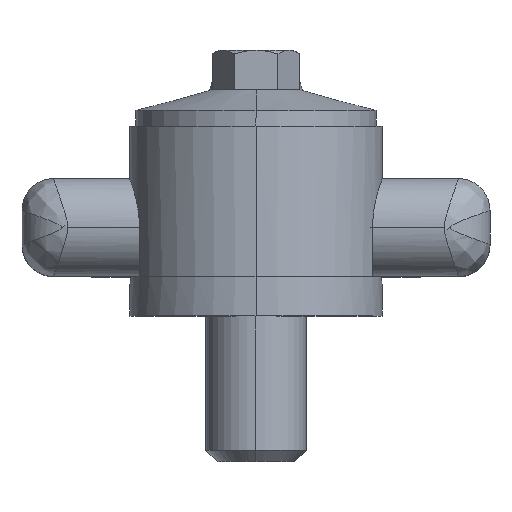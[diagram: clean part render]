
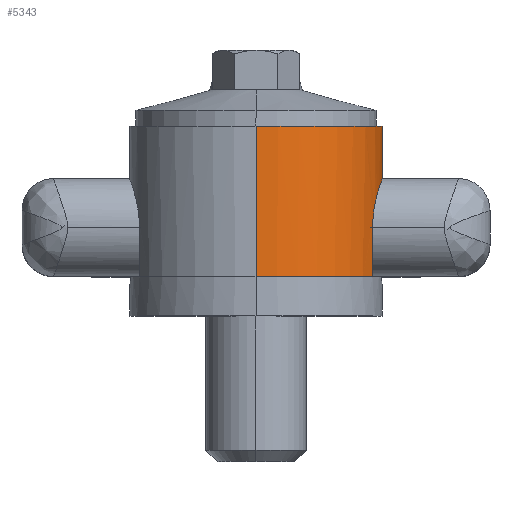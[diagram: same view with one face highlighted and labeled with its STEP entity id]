
A CAD part, top view. The second image highlights one B-rep face of the part: STEP entity #5343.
In plain terms, the highlighted cylindrical face has radius 40 mm (diameter 80 mm), a partial arc.
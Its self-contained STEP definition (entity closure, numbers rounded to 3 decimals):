
#574 = EDGE_LOOP ( 'NONE', ( #5344, #2859, #2868, #1642, #4916, #4597, #4031, #3854 ) ) ;
#1642 = ORIENTED_EDGE ( 'NONE', *, *, #4917, .T. ) ;
#1993 = VERTEX_POINT ( 'NONE', #3455 ) ;
#2014 = VERTEX_POINT ( 'NONE', #3454 ) ;
#2097 = VERTEX_POINT ( 'NONE', #3453 ) ;
#2859 = ORIENTED_EDGE ( 'NONE', *, *, #2869, .T. ) ;
#2866 = VERTEX_POINT ( 'NONE', #3452 ) ;
#2868 = ORIENTED_EDGE ( 'NONE', *, *, #2874, .F. ) ;
#2869 = EDGE_CURVE ( 'NONE', #2014, #2866, #3451, .T. ) ;
#2874 = EDGE_CURVE ( 'NONE', #2097, #2866, #3508, .T. ) ;
#3447 = CARTESIAN_POINT ( 'NONE',  ( 0., 12.5, 0. ) ) ;
#3448 = DIRECTION ( 'NONE',  ( 0., -1., 0. ) ) ;
#3449 = VECTOR ( 'NONE', #3448, 1000. ) ;
#3450 = CARTESIAN_POINT ( 'NONE',  ( 0., 84., 40. ) ) ;
#3451 = LINE ( 'NONE', #3450, #3449 ) ;
#3452 = CARTESIAN_POINT ( 'NONE',  ( 0., 12.5, 40. ) ) ;
#3453 = CARTESIAN_POINT ( 'NONE',  ( 36.875, 12.5, 15.5 ) ) ;
#3454 = CARTESIAN_POINT ( 'NONE',  ( 0., 60., 40. ) ) ;
#3455 = CARTESIAN_POINT ( 'NONE',  ( 0., 60., -40. ) ) ;
#3479 = DIRECTION ( 'NONE',  ( 0., -1., 0. ) ) ;
#3480 = VECTOR ( 'NONE', #3479, 1000. ) ;
#3481 = CARTESIAN_POINT ( 'NONE',  ( 36.875, 84., -15.5 ) ) ;
#3482 = LINE ( 'NONE', #3481, #3480 ) ;
#3483 = CARTESIAN_POINT ( 'NONE',  ( 36.875, 12.5, -15.5 ) ) ;
#3484 = DIRECTION ( 'NONE',  ( 0., 0., -1. ) ) ;
#3485 = DIRECTION ( 'NONE',  ( 0., -1., 0. ) ) ;
#3486 = CARTESIAN_POINT ( 'NONE',  ( 0., 12.5, 0. ) ) ;
#3487 = AXIS2_PLACEMENT_3D ( 'NONE', #3486, #3485, #3484 ) ;
#3488 = CIRCLE ( 'NONE', #3487, 40. ) ;
#3489 = DIRECTION ( 'NONE',  ( 0., -1., 0. ) ) ;
#3490 = VECTOR ( 'NONE', #3489, 1000. ) ;
#3491 = CARTESIAN_POINT ( 'NONE',  ( 0., 84., -40. ) ) ;
#3492 = LINE ( 'NONE', #3491, #3490 ) ;
#3496 = CARTESIAN_POINT ( 'NONE',  ( 0., 12.5, -40. ) ) ;
#3505 = DIRECTION ( 'NONE',  ( 0., 0., -1. ) ) ;
#3506 = DIRECTION ( 'NONE',  ( 0., -1., 0. ) ) ;
#3507 = AXIS2_PLACEMENT_3D ( 'NONE', #3447, #3506, #3505 ) ;
#3508 = CIRCLE ( 'NONE', #3507, 40. ) ;
#3509 = CARTESIAN_POINT ( 'NONE',  ( 39.621, 42.496, 5.511 ) ) ;
#3510 = CARTESIAN_POINT ( 'NONE',  ( 39.41, 41.912, 6.907 ) ) ;
#3511 = CARTESIAN_POINT ( 'NONE',  ( 39.243, 41.436, 7.794 ) ) ;
#3512 = CARTESIAN_POINT ( 'NONE',  ( 38.963, 40.588, 9.059 ) ) ;
#3513 = CARTESIAN_POINT ( 'NONE',  ( 38.866, 40.285, 9.464 ) ) ;
#3514 = CARTESIAN_POINT ( 'NONE',  ( 38.669, 39.647, 10.239 ) ) ;
#3515 = CARTESIAN_POINT ( 'NONE',  ( 38.569, 39.311, 10.609 ) ) ;
#3516 = CARTESIAN_POINT ( 'NONE',  ( 38.368, 38.604, 11.316 ) ) ;
#3517 = CARTESIAN_POINT ( 'NONE',  ( 38.266, 38.233, 11.653 ) ) ;
#3518 = CARTESIAN_POINT ( 'NONE',  ( 38.066, 37.455, 12.293 ) ) ;
#3519 = CARTESIAN_POINT ( 'NONE',  ( 37.966, 37.046, 12.596 ) ) ;
#3520 = CARTESIAN_POINT ( 'NONE',  ( 37.68, 35.789, 13.439 ) ) ;
#3521 = CARTESIAN_POINT ( 'NONE',  ( 37.504, 34.903, 13.915 ) ) ;
#3522 = CARTESIAN_POINT ( 'NONE',  ( 37.28, 33.5, 14.5 ) ) ;
#3523 = CARTESIAN_POINT ( 'NONE',  ( 37.211, 33.017, 14.674 ) ) ;
#3524 = CARTESIAN_POINT ( 'NONE',  ( 37.092, 32.039, 14.973 ) ) ;
#3525 = CARTESIAN_POINT ( 'NONE',  ( 37.041, 31.545, 15.098 ) ) ;
#3526 = CARTESIAN_POINT ( 'NONE',  ( 36.918, 30.05, 15.397 ) ) ;
#3527 = CARTESIAN_POINT ( 'NONE',  ( 36.875, 29.035, 15.5 ) ) ;
#3528 = CARTESIAN_POINT ( 'NONE',  ( 36.875, 28., 15.5 ) ) ;
#3529 = LINE ( 'NONE', #3553, #3552 ) ;
#3530 = B_SPLINE_CURVE_WITH_KNOTS ( 'NONE', 3,
 ( #3528, #3527, #3526, #3525, #3524, #3523, #3522, #3521, #3520, #3519, #3518, #3517, #3516, #3515, #3514, #3513, #3512, #3511, #3510, #3509, #3583, #3582, #3581, #3580, #3579, #3578, #3577, #3576, #3575, #3574, #3573, #3572, #3571, #3570, #3569, #3568, #3567, #3566, #3565, #3564, #3563, #3562, #3561, #3560, #3559, #3558, #3557, #3556, #3555, #3554 ),
 .UNSPECIFIED., .F., .F.,
 ( 4, 2, 2, 2, 2, 2, 2, 2, 2, 2, 2, 2, 2, 2, 2, 2, 2, 2, 2, 2, 2, 2, 2, 2, 4 ),
 ( 0., 0.003, 0.005, 0.006, 0.009, 0.011, 0.012, 0.014, 0.015, 0.018, 0.02, 0.021, 0.024, 0.026, 0.028, 0.031, 0.034, 0.035, 0.037, 0.04, 0.041, 0.043, 0.046, 0.047, 0.049 ),
 .UNSPECIFIED. ) ;
#3531 = CARTESIAN_POINT ( 'NONE',  ( 36.875, 28., 15.5 ) ) ;
#3542 = CARTESIAN_POINT ( 'NONE',  ( 36.875, 28., -15.5 ) ) ;
#3551 = DIRECTION ( 'NONE',  ( 0., 1., 0. ) ) ;
#3552 = VECTOR ( 'NONE', #3551, 1000. ) ;
#3553 = CARTESIAN_POINT ( 'NONE',  ( 36.875, 84., 15.5 ) ) ;
#3554 = CARTESIAN_POINT ( 'NONE',  ( 36.875, 28., -15.5 ) ) ;
#3555 = CARTESIAN_POINT ( 'NONE',  ( 36.875, 28.517, -15.5 ) ) ;
#3556 = CARTESIAN_POINT ( 'NONE',  ( 36.886, 29.032, -15.474 ) ) ;
#3557 = CARTESIAN_POINT ( 'NONE',  ( 36.929, 30.057, -15.372 ) ) ;
#3558 = CARTESIAN_POINT ( 'NONE',  ( 36.961, 30.568, -15.294 ) ) ;
#3559 = CARTESIAN_POINT ( 'NONE',  ( 37.086, 32.079, -14.989 ) ) ;
#3560 = CARTESIAN_POINT ( 'NONE',  ( 37.207, 33.045, -14.69 ) ) ;
#3561 = CARTESIAN_POINT ( 'NONE',  ( 37.43, 34.441, -14.108 ) ) ;
#3562 = CARTESIAN_POINT ( 'NONE',  ( 37.512, 34.896, -13.89 ) ) ;
#3563 = CARTESIAN_POINT ( 'NONE',  ( 37.686, 35.789, -13.41 ) ) ;
#3564 = CARTESIAN_POINT ( 'NONE',  ( 37.779, 36.226, -13.147 ) ) ;
#3565 = CARTESIAN_POINT ( 'NONE',  ( 38.065, 37.48, -12.304 ) ) ;
#3566 = CARTESIAN_POINT ( 'NONE',  ( 38.267, 38.251, -11.669 ) ) ;
#3567 = CARTESIAN_POINT ( 'NONE',  ( 38.571, 39.316, -10.604 ) ) ;
#3568 = CARTESIAN_POINT ( 'NONE',  ( 38.672, 39.657, -10.228 ) ) ;
#3569 = CARTESIAN_POINT ( 'NONE',  ( 38.871, 40.299, -9.447 ) ) ;
#3570 = CARTESIAN_POINT ( 'NONE',  ( 38.967, 40.599, -9.043 ) ) ;
#3571 = CARTESIAN_POINT ( 'NONE',  ( 39.243, 41.438, -7.791 ) ) ;
#3572 = CARTESIAN_POINT ( 'NONE',  ( 39.412, 41.916, -6.902 ) ) ;
#3573 = CARTESIAN_POINT ( 'NONE',  ( 39.696, 42.703, -5.011 ) ) ;
#3574 = CARTESIAN_POINT ( 'NONE',  ( 39.808, 42.999, -4.039 ) ) ;
#3575 = CARTESIAN_POINT ( 'NONE',  ( 39.922, 43.299, -2.541 ) ) ;
#3576 = CARTESIAN_POINT ( 'NONE',  ( 39.952, 43.375, -2.035 ) ) ;
#3577 = CARTESIAN_POINT ( 'NONE',  ( 39.991, 43.476, -1.009 ) ) ;
#3578 = CARTESIAN_POINT ( 'NONE',  ( 40., 43.501, -0.493 ) ) ;
#3579 = CARTESIAN_POINT ( 'NONE',  ( 40., 43.499, 1.041 ) ) ;
#3580 = CARTESIAN_POINT ( 'NONE',  ( 39.96, 43.397, 2.054 ) ) ;
#3581 = CARTESIAN_POINT ( 'NONE',  ( 39.845, 43.095, 3.558 ) ) ;
#3582 = CARTESIAN_POINT ( 'NONE',  ( 39.797, 42.968, 4.059 ) ) ;
#3583 = CARTESIAN_POINT ( 'NONE',  ( 39.685, 42.668, 5.035 ) ) ;
#3810 = VERTEX_POINT ( 'NONE', #3496 ) ;
#3854 = ORIENTED_EDGE ( 'NONE', *, *, #3856, .F. ) ;
#3856 = EDGE_CURVE ( 'NONE', #1993, #3810, #3492, .T. ) ;
#3987 = EDGE_CURVE ( 'NONE', #3810, #4032, #3488, .T. ) ;
#4031 = ORIENTED_EDGE ( 'NONE', *, *, #3987, .F. ) ;
#4032 = VERTEX_POINT ( 'NONE', #3483 ) ;
#4273 = EDGE_CURVE ( 'NONE', #4812, #4032, #3482, .T. ) ;
#4280 = DIRECTION ( 'NONE',  ( 0., 0., -1. ) ) ;
#4281 = AXIS2_PLACEMENT_3D ( 'NONE', #4283, #4290, #4280 ) ;
#4283 = CARTESIAN_POINT ( 'NONE',  ( 0., 84., 0. ) ) ;
#4284 = CYLINDRICAL_SURFACE ( 'NONE', #4281, 40. ) ;
#4290 = DIRECTION ( 'NONE',  ( 0., -1., 0. ) ) ;
#4292 = FACE_OUTER_BOUND ( 'NONE', #574, .T. ) ;
#4293 = DIRECTION ( 'NONE',  ( 0., 0., 1. ) ) ;
#4294 = DIRECTION ( 'NONE',  ( 0., 1., 0. ) ) ;
#4295 = CARTESIAN_POINT ( 'NONE',  ( 0., 60., 0. ) ) ;
#4296 = AXIS2_PLACEMENT_3D ( 'NONE', #4295, #4294, #4293 ) ;
#4300 = CIRCLE ( 'NONE', #4296, 40. ) ;
#4597 = ORIENTED_EDGE ( 'NONE', *, *, #4273, .T. ) ;
#4812 = VERTEX_POINT ( 'NONE', #3542 ) ;
#4914 = EDGE_CURVE ( 'NONE', #4915, #4812, #3530, .T. ) ;
#4915 = VERTEX_POINT ( 'NONE', #3531 ) ;
#4916 = ORIENTED_EDGE ( 'NONE', *, *, #4914, .T. ) ;
#4917 = EDGE_CURVE ( 'NONE', #2097, #4915, #3529, .T. ) ;
#5340 = EDGE_CURVE ( 'NONE', #2014, #1993, #4300, .T. ) ;
#5343 = ADVANCED_FACE ( 'NONE', ( #4292 ), #4284, .T. ) ;
#5344 = ORIENTED_EDGE ( 'NONE', *, *, #5340, .F. ) ;
